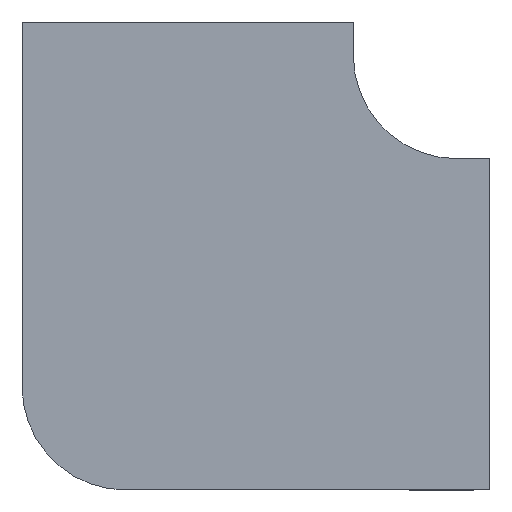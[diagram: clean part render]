
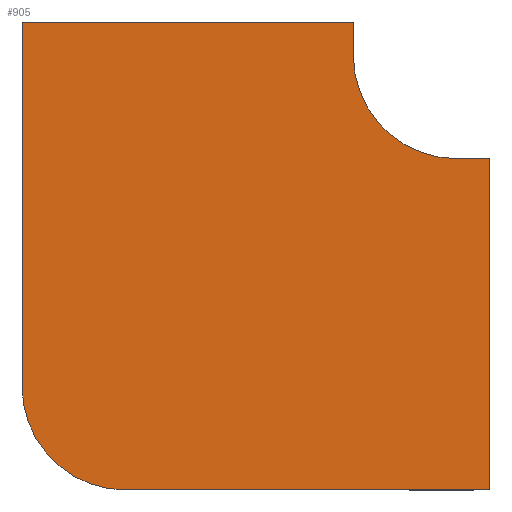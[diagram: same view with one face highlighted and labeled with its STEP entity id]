
A CAD part, front view. The second image highlights one B-rep face of the part: STEP entity #905.
In plain terms, the highlighted planar face has unit normal (0, -1, 0).
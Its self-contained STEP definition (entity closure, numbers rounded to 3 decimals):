
#52 = CIRCLE ( 'NONE', #1545, 125. ) ;
#53 = DIRECTION ( 'NONE',  ( 0., 0., -1. ) ) ;
#62 = EDGE_CURVE ( 'NONE', #1588, #668, #1007, .T. ) ;
#100 = VECTOR ( 'NONE', #647, 1000. ) ;
#115 = EDGE_CURVE ( 'NONE', #543, #671, #1417, .T. ) ;
#121 = EDGE_LOOP ( 'NONE', ( #1644, #134, #523, #632, #343, #703, #945, #1161 ) ) ;
#134 = ORIENTED_EDGE ( 'NONE', *, *, #595, .F. ) ;
#136 = CARTESIAN_POINT ( 'NONE',  ( 0., 0., -125. ) ) ;
#145 = DIRECTION ( 'NONE',  ( 0., 0., -1. ) ) ;
#179 = PLANE ( 'NONE',  #604 ) ;
#302 = LINE ( 'NONE', #1049, #457 ) ;
#339 = DIRECTION ( 'NONE',  ( 1., 0., 0. ) ) ;
#343 = ORIENTED_EDGE ( 'NONE', *, *, #414, .F. ) ;
#360 = CARTESIAN_POINT ( 'NONE',  ( -525., 0., 40. ) ) ;
#414 = EDGE_CURVE ( 'NONE', #671, #816, #302, .T. ) ;
#418 = EDGE_CURVE ( 'NONE', #668, #543, #939, .T. ) ;
#440 = CARTESIAN_POINT ( 'NONE',  ( 0., 0., -125. ) ) ;
#457 = VECTOR ( 'NONE', #145, 1000. ) ;
#516 = DIRECTION ( 'NONE',  ( 0., 0., 1. ) ) ;
#518 = VECTOR ( 'NONE', #1647, 1000. ) ;
#523 = ORIENTED_EDGE ( 'NONE', *, *, #1143, .F. ) ;
#527 = DIRECTION ( 'NONE',  ( 0., 1., 0. ) ) ;
#543 = VERTEX_POINT ( 'NONE', #440 ) ;
#559 = CARTESIAN_POINT ( 'NONE',  ( 40., 0., -525. ) ) ;
#595 = EDGE_CURVE ( 'NONE', #1111, #692, #1377, .T. ) ;
#604 = AXIS2_PLACEMENT_3D ( 'NONE', #1216, #717, #1235 ) ;
#632 = ORIENTED_EDGE ( 'NONE', *, *, #895, .F. ) ;
#647 = DIRECTION ( 'NONE',  ( 0., 0., -1. ) ) ;
#664 = DIRECTION ( 'NONE',  ( 0., -1., 0. ) ) ;
#668 = VERTEX_POINT ( 'NONE', #678 ) ;
#671 = VERTEX_POINT ( 'NONE', #914 ) ;
#678 = CARTESIAN_POINT ( 'NONE',  ( -125., 0., 0. ) ) ;
#692 = VERTEX_POINT ( 'NONE', #360 ) ;
#703 = ORIENTED_EDGE ( 'NONE', *, *, #115, .F. ) ;
#717 = DIRECTION ( 'NONE',  ( 0., -1., 0. ) ) ;
#724 = CARTESIAN_POINT ( 'NONE',  ( 40., 0., -525. ) ) ;
#740 = CARTESIAN_POINT ( 'NONE',  ( -400., 0., -525. ) ) ;
#747 = CARTESIAN_POINT ( 'NONE',  ( -125., 0., 40. ) ) ;
#771 = CARTESIAN_POINT ( 'NONE',  ( -400., 0., -400. ) ) ;
#778 = VECTOR ( 'NONE', #1041, 1000. ) ;
#816 = VERTEX_POINT ( 'NONE', #724 ) ;
#839 = DIRECTION ( 'NONE',  ( -1., 0., 0. ) ) ;
#848 = LINE ( 'NONE', #1363, #1675 ) ;
#895 = EDGE_CURVE ( 'NONE', #816, #1669, #1083, .T. ) ;
#905 = ADVANCED_FACE ( 'NONE', ( #1620 ), #179, .T. ) ;
#914 = CARTESIAN_POINT ( 'NONE',  ( 40., 0., -125. ) ) ;
#939 = CIRCLE ( 'NONE', #1293, 125. ) ;
#945 = ORIENTED_EDGE ( 'NONE', *, *, #418, .F. ) ;
#1007 = LINE ( 'NONE', #1290, #100 ) ;
#1041 = DIRECTION ( 'NONE',  ( 1., 0., 0. ) ) ;
#1049 = CARTESIAN_POINT ( 'NONE',  ( 40., 0., -125. ) ) ;
#1083 = LINE ( 'NONE', #559, #1572 ) ;
#1111 = VERTEX_POINT ( 'NONE', #1426 ) ;
#1143 = EDGE_CURVE ( 'NONE', #1669, #1111, #52, .T. ) ;
#1161 = ORIENTED_EDGE ( 'NONE', *, *, #62, .F. ) ;
#1216 = CARTESIAN_POINT ( 'NONE',  ( 0., 0., 0. ) ) ;
#1235 = DIRECTION ( 'NONE',  ( 0., 0., -1. ) ) ;
#1290 = CARTESIAN_POINT ( 'NONE',  ( -125., 0., 40. ) ) ;
#1293 = AXIS2_PLACEMENT_3D ( 'NONE', #1314, #664, #53 ) ;
#1314 = CARTESIAN_POINT ( 'NONE',  ( 0., 0., 0. ) ) ;
#1363 = CARTESIAN_POINT ( 'NONE',  ( -525., 0., 40. ) ) ;
#1367 = EDGE_CURVE ( 'NONE', #692, #1588, #848, .T. ) ;
#1377 = LINE ( 'NONE', #1633, #518 ) ;
#1417 = LINE ( 'NONE', #136, #778 ) ;
#1426 = CARTESIAN_POINT ( 'NONE',  ( -525., 0., -400. ) ) ;
#1545 = AXIS2_PLACEMENT_3D ( 'NONE', #771, #527, #516 ) ;
#1572 = VECTOR ( 'NONE', #839, 1000. ) ;
#1588 = VERTEX_POINT ( 'NONE', #747 ) ;
#1620 = FACE_OUTER_BOUND ( 'NONE', #121, .T. ) ;
#1633 = CARTESIAN_POINT ( 'NONE',  ( -525., 0., -400. ) ) ;
#1644 = ORIENTED_EDGE ( 'NONE', *, *, #1367, .F. ) ;
#1647 = DIRECTION ( 'NONE',  ( 0., 0., 1. ) ) ;
#1669 = VERTEX_POINT ( 'NONE', #740 ) ;
#1675 = VECTOR ( 'NONE', #339, 1000. ) ;
